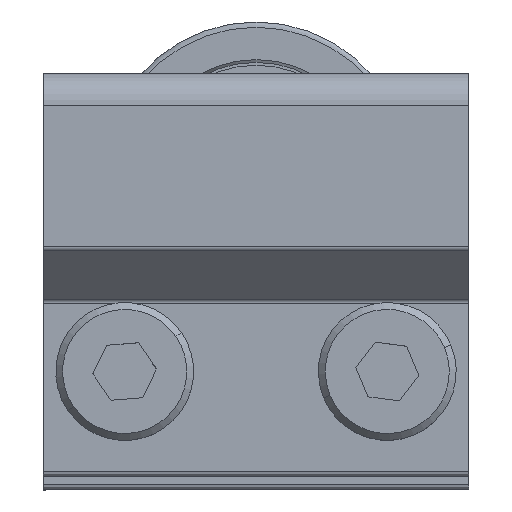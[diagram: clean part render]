
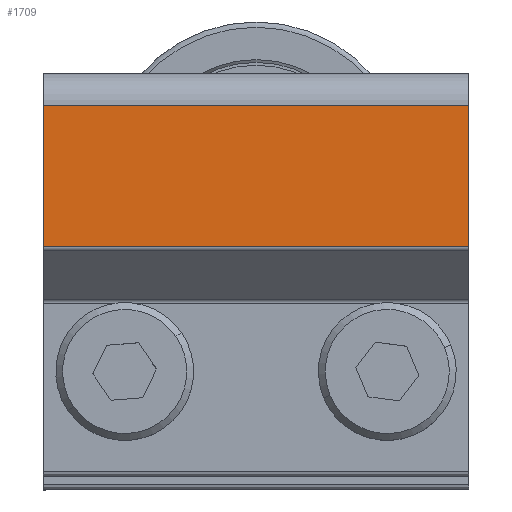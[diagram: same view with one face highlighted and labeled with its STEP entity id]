
A CAD part, top view. The second image highlights one B-rep face of the part: STEP entity #1709.
In plain terms, the highlighted planar face has unit normal (0, 0, 1) as drawn and (1, 0, 0) by its records, which use the part's own axes.
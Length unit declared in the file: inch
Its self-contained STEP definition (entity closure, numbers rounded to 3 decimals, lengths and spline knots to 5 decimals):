
#1212=DIRECTION('',(0.,-1.,0.));
#1213=VECTOR('',#1212,0.40379);
#1214=CARTESIAN_POINT('',(0.375,0.763,-0.608));
#1215=LINE('',#1214,#1213);
#1293=DIRECTION('',(0.,-1.,0.));
#1294=VECTOR('',#1293,0.40379);
#1295=CARTESIAN_POINT('',(0.375,0.763,0.608));
#1296=LINE('',#1295,#1294);
#1362=DIRECTION('',(0.,0.,1.));
#1363=VECTOR('',#1362,1.216);
#1364=CARTESIAN_POINT('',(0.375,0.35921,-0.608));
#1365=LINE('',#1364,#1363);
#1522=DIRECTION('',(0.,0.,-1.));
#1523=VECTOR('',#1522,1.216);
#1524=CARTESIAN_POINT('',(0.375,0.763,0.608));
#1525=LINE('',#1524,#1523);
#1558=CARTESIAN_POINT('',(0.375,0.763,0.608));
#1559=CARTESIAN_POINT('',(0.375,0.35921,0.608));
#1560=VERTEX_POINT('',#1558);
#1561=VERTEX_POINT('',#1559);
#1590=CARTESIAN_POINT('',(0.375,0.35921,-0.608));
#1591=VERTEX_POINT('',#1590);
#1616=CARTESIAN_POINT('',(0.375,0.763,-0.608));
#1617=VERTEX_POINT('',#1616);
#1695=CARTESIAN_POINT('',(0.375,0.763,0.608));
#1696=DIRECTION('',(-1.,0.,0.));
#1697=DIRECTION('',(0.,-1.,0.));
#1698=AXIS2_PLACEMENT_3D('',#1695,#1696,#1697);
#1699=PLANE('',#1698);
#1701=ORIENTED_EDGE('',*,*,#1700,.F.);
#1703=ORIENTED_EDGE('',*,*,#1702,.T.);
#1704=ORIENTED_EDGE('',*,*,#1651,.T.);
#1706=ORIENTED_EDGE('',*,*,#1705,.T.);
#1707=EDGE_LOOP('',(#1701,#1703,#1704,#1706));
#1708=FACE_OUTER_BOUND('',#1707,.F.);
#1651=EDGE_CURVE('',#1617,#1591,#1215,.T.);
#1700=EDGE_CURVE('',#1560,#1561,#1296,.T.);
#1702=EDGE_CURVE('',#1560,#1617,#1525,.T.);
#1705=EDGE_CURVE('',#1591,#1561,#1365,.T.);
#1709=ADVANCED_FACE('',(#1708),#1699,.F.);
